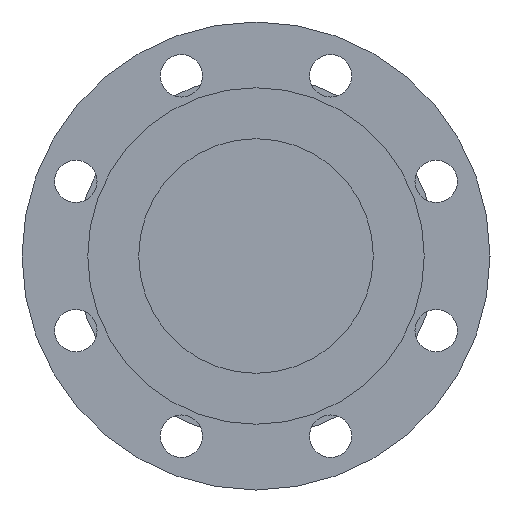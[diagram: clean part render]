
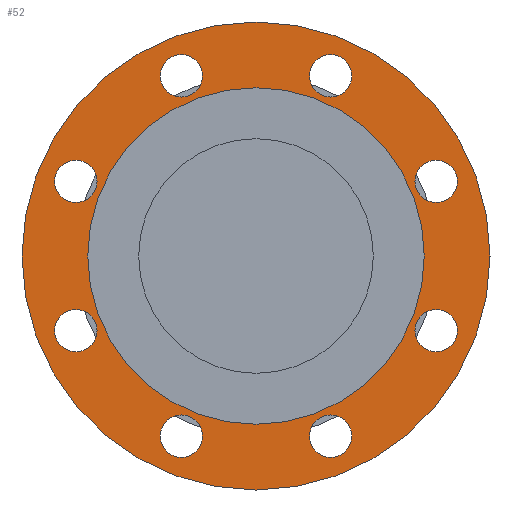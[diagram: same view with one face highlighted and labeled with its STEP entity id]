
A CAD part, left-side view. The second image highlights one B-rep face of the part: STEP entity #52.
In plain terms, the highlighted planar face has unit normal (-1, 0, 0).
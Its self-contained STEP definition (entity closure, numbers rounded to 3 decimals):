
#52=ADVANCED_FACE('',(#247,#248,#249,#250,#251,#252,#253,#254,#255,#256),#246,.T.);
#246=PLANE('',#991);
#247=FACE_OUTER_BOUND('',#992,.T.);
#248=FACE_BOUND('',#993,.T.);
#249=FACE_BOUND('',#994,.T.);
#250=FACE_BOUND('',#995,.T.);
#251=FACE_BOUND('',#996,.T.);
#252=FACE_BOUND('',#997,.T.);
#253=FACE_BOUND('',#998,.T.);
#254=FACE_BOUND('',#999,.T.);
#255=FACE_BOUND('',#1000,.T.);
#256=FACE_BOUND('',#1001,.T.);
#988=CARTESIAN_POINT('',(1.,-191.865,-220.));
#989=DIRECTION('',(-1.,0.,0.));
#990=DIRECTION('',(0.,0.,1.));
#991=AXIS2_PLACEMENT_3D('',#988,#989,#990);
#992=EDGE_LOOP('',(#1409,#1410));
#993=EDGE_LOOP('',(#1411,#1412));
#994=EDGE_LOOP('',(#1413,#1414));
#995=EDGE_LOOP('',(#1415,#1416));
#996=EDGE_LOOP('',(#1417,#1418));
#997=EDGE_LOOP('',(#1419,#1420));
#998=EDGE_LOOP('',(#1421,#1422));
#999=EDGE_LOOP('',(#1423,#1424));
#1000=EDGE_LOOP('',(#1425,#1426));
#1001=EDGE_LOOP('',(#1427,#1428));
#1409=ORIENTED_EDGE('',*,*,#1787,.T.);
#1410=ORIENTED_EDGE('',*,*,#1788,.T.);
#1411=ORIENTED_EDGE('',*,*,#1789,.F.);
#1412=ORIENTED_EDGE('',*,*,#1790,.F.);
#1413=ORIENTED_EDGE('',*,*,#1791,.F.);
#1414=ORIENTED_EDGE('',*,*,#1792,.F.);
#1415=ORIENTED_EDGE('',*,*,#1793,.F.);
#1416=ORIENTED_EDGE('',*,*,#1794,.F.);
#1417=ORIENTED_EDGE('',*,*,#1795,.F.);
#1418=ORIENTED_EDGE('',*,*,#1796,.F.);
#1419=ORIENTED_EDGE('',*,*,#1797,.F.);
#1420=ORIENTED_EDGE('',*,*,#1798,.F.);
#1421=ORIENTED_EDGE('',*,*,#1799,.F.);
#1422=ORIENTED_EDGE('',*,*,#1800,.F.);
#1423=ORIENTED_EDGE('',*,*,#1801,.F.);
#1424=ORIENTED_EDGE('',*,*,#1802,.F.);
#1425=ORIENTED_EDGE('',*,*,#1803,.F.);
#1426=ORIENTED_EDGE('',*,*,#1804,.F.);
#1427=ORIENTED_EDGE('',*,*,#1805,.F.);
#1428=ORIENTED_EDGE('',*,*,#1806,.F.);
#1787=EDGE_CURVE('',#2328,#2329,#2330,.T.);
#1788=EDGE_CURVE('',#2329,#2328,#2336,.T.);
#1789=EDGE_CURVE('',#2342,#2343,#2344,.T.);
#1790=EDGE_CURVE('',#2343,#2342,#2350,.T.);
#1791=EDGE_CURVE('',#2356,#2357,#2358,.T.);
#1792=EDGE_CURVE('',#2357,#2356,#2364,.T.);
#1793=EDGE_CURVE('',#2370,#2371,#2372,.T.);
#1794=EDGE_CURVE('',#2371,#2370,#2378,.T.);
#1795=EDGE_CURVE('',#2384,#2385,#2386,.T.);
#1796=EDGE_CURVE('',#2385,#2384,#2392,.T.);
#1797=EDGE_CURVE('',#2398,#2399,#2400,.T.);
#1798=EDGE_CURVE('',#2399,#2398,#2406,.T.);
#1799=EDGE_CURVE('',#2412,#2413,#2414,.T.);
#1800=EDGE_CURVE('',#2413,#2412,#2420,.T.);
#1801=EDGE_CURVE('',#2426,#2427,#2428,.T.);
#1802=EDGE_CURVE('',#2427,#2426,#2434,.T.);
#1803=EDGE_CURVE('',#2440,#2441,#2442,.T.);
#1804=EDGE_CURVE('',#2441,#2440,#2448,.T.);
#1805=EDGE_CURVE('',#2454,#2455,#2456,.T.);
#1806=EDGE_CURVE('',#2455,#2454,#2462,.T.);
#2328=VERTEX_POINT('',#3475);
#2329=VERTEX_POINT('',#3476);
#2330=CIRCLE('',#3480,105.);
#2336=CIRCLE('',#3484,105.);
#2342=VERTEX_POINT('',#3485);
#2343=VERTEX_POINT('',#3486);
#2344=CIRCLE('',#3490,9.5);
#2350=CIRCLE('',#3494,9.5);
#2356=VERTEX_POINT('',#3495);
#2357=VERTEX_POINT('',#3496);
#2358=CIRCLE('',#3500,9.5);
#2364=CIRCLE('',#3504,9.5);
#2370=VERTEX_POINT('',#3505);
#2371=VERTEX_POINT('',#3506);
#2372=CIRCLE('',#3510,9.5);
#2378=CIRCLE('',#3514,9.5);
#2384=VERTEX_POINT('',#3515);
#2385=VERTEX_POINT('',#3516);
#2386=CIRCLE('',#3520,9.5);
#2392=CIRCLE('',#3524,9.5);
#2398=VERTEX_POINT('',#3525);
#2399=VERTEX_POINT('',#3526);
#2400=CIRCLE('',#3530,9.5);
#2406=CIRCLE('',#3534,9.5);
#2412=VERTEX_POINT('',#3535);
#2413=VERTEX_POINT('',#3536);
#2414=CIRCLE('',#3540,9.5);
#2420=CIRCLE('',#3544,9.5);
#2426=VERTEX_POINT('',#3545);
#2427=VERTEX_POINT('',#3546);
#2428=CIRCLE('',#3550,9.5);
#2434=CIRCLE('',#3554,9.5);
#2440=VERTEX_POINT('',#3555);
#2441=VERTEX_POINT('',#3556);
#2442=CIRCLE('',#3560,75.5);
#2448=CIRCLE('',#3564,75.5);
#2454=VERTEX_POINT('',#3565);
#2455=VERTEX_POINT('',#3566);
#2456=CIRCLE('',#3570,9.5);
#2462=CIRCLE('',#3574,9.5);
#3475=CARTESIAN_POINT('',(1.,0.,105.));
#3476=CARTESIAN_POINT('',(1.,0.,-105.));
#3477=CARTESIAN_POINT('',(1.,0.,0.));
#3478=DIRECTION('',(-1.,0.,0.));
#3479=DIRECTION('',(0.,0.,1.));
#3480=AXIS2_PLACEMENT_3D('',#3477,#3478,#3479);
#3481=CARTESIAN_POINT('',(1.,0.,0.));
#3482=DIRECTION('',(-1.,0.,0.));
#3483=DIRECTION('',(0.,0.,1.));
#3484=AXIS2_PLACEMENT_3D('',#3481,#3482,#3483);
#3485=CARTESIAN_POINT('',(1.,80.839,-23.985));
#3486=CARTESIAN_POINT('',(1.,80.839,-42.985));
#3487=CARTESIAN_POINT('',(1.,80.839,-33.485));
#3488=DIRECTION('',(-1.,0.,0.));
#3489=DIRECTION('',(0.,0.,-1.));
#3490=AXIS2_PLACEMENT_3D('',#3487,#3488,#3489);
#3491=CARTESIAN_POINT('',(1.,80.839,-33.485));
#3492=DIRECTION('',(-1.,0.,0.));
#3493=DIRECTION('',(0.,0.,-1.));
#3494=AXIS2_PLACEMENT_3D('',#3491,#3492,#3493);
#3495=CARTESIAN_POINT('',(1.,33.485,-71.339));
#3496=CARTESIAN_POINT('',(1.,33.485,-90.339));
#3497=CARTESIAN_POINT('',(1.,33.485,-80.839));
#3498=DIRECTION('',(-1.,0.,0.));
#3499=DIRECTION('',(0.,0.,-1.));
#3500=AXIS2_PLACEMENT_3D('',#3497,#3498,#3499);
#3501=CARTESIAN_POINT('',(1.,33.485,-80.839));
#3502=DIRECTION('',(-1.,0.,0.));
#3503=DIRECTION('',(0.,0.,-1.));
#3504=AXIS2_PLACEMENT_3D('',#3501,#3502,#3503);
#3505=CARTESIAN_POINT('',(1.,-33.485,-71.339));
#3506=CARTESIAN_POINT('',(1.,-33.485,-90.339));
#3507=CARTESIAN_POINT('',(1.,-33.485,-80.839));
#3508=DIRECTION('',(-1.,0.,0.));
#3509=DIRECTION('',(0.,0.,-1.));
#3510=AXIS2_PLACEMENT_3D('',#3507,#3508,#3509);
#3511=CARTESIAN_POINT('',(1.,-33.485,-80.839));
#3512=DIRECTION('',(-1.,0.,0.));
#3513=DIRECTION('',(0.,0.,-1.));
#3514=AXIS2_PLACEMENT_3D('',#3511,#3512,#3513);
#3515=CARTESIAN_POINT('',(1.,-80.839,-23.985));
#3516=CARTESIAN_POINT('',(1.,-80.839,-42.985));
#3517=CARTESIAN_POINT('',(1.,-80.839,-33.485));
#3518=DIRECTION('',(-1.,0.,0.));
#3519=DIRECTION('',(0.,0.,-1.));
#3520=AXIS2_PLACEMENT_3D('',#3517,#3518,#3519);
#3521=CARTESIAN_POINT('',(1.,-80.839,-33.485));
#3522=DIRECTION('',(-1.,0.,0.));
#3523=DIRECTION('',(0.,0.,-1.));
#3524=AXIS2_PLACEMENT_3D('',#3521,#3522,#3523);
#3525=CARTESIAN_POINT('',(1.,-80.839,42.985));
#3526=CARTESIAN_POINT('',(1.,-80.839,23.985));
#3527=CARTESIAN_POINT('',(1.,-80.839,33.485));
#3528=DIRECTION('',(-1.,0.,0.));
#3529=DIRECTION('',(0.,0.,-1.));
#3530=AXIS2_PLACEMENT_3D('',#3527,#3528,#3529);
#3531=CARTESIAN_POINT('',(1.,-80.839,33.485));
#3532=DIRECTION('',(-1.,0.,0.));
#3533=DIRECTION('',(0.,0.,-1.));
#3534=AXIS2_PLACEMENT_3D('',#3531,#3532,#3533);
#3535=CARTESIAN_POINT('',(1.,-33.485,90.34));
#3536=CARTESIAN_POINT('',(1.,-33.485,71.34));
#3537=CARTESIAN_POINT('',(1.,-33.485,80.84));
#3538=DIRECTION('',(-1.,0.,0.));
#3539=DIRECTION('',(0.,0.,-1.));
#3540=AXIS2_PLACEMENT_3D('',#3537,#3538,#3539);
#3541=CARTESIAN_POINT('',(1.,-33.485,80.84));
#3542=DIRECTION('',(-1.,0.,0.));
#3543=DIRECTION('',(0.,0.,-1.));
#3544=AXIS2_PLACEMENT_3D('',#3541,#3542,#3543);
#3545=CARTESIAN_POINT('',(1.,33.485,90.34));
#3546=CARTESIAN_POINT('',(1.,33.485,71.34));
#3547=CARTESIAN_POINT('',(1.,33.485,80.84));
#3548=DIRECTION('',(-1.,0.,0.));
#3549=DIRECTION('',(0.,0.,-1.));
#3550=AXIS2_PLACEMENT_3D('',#3547,#3548,#3549);
#3551=CARTESIAN_POINT('',(1.,33.485,80.84));
#3552=DIRECTION('',(-1.,0.,0.));
#3553=DIRECTION('',(0.,0.,-1.));
#3554=AXIS2_PLACEMENT_3D('',#3551,#3552,#3553);
#3555=CARTESIAN_POINT('',(1.,0.,-75.5));
#3556=CARTESIAN_POINT('',(1.,0.,75.5));
#3557=CARTESIAN_POINT('',(1.,0.,0.));
#3558=DIRECTION('',(-1.,0.,0.));
#3559=DIRECTION('',(0.,0.,1.));
#3560=AXIS2_PLACEMENT_3D('',#3557,#3558,#3559);
#3561=CARTESIAN_POINT('',(1.,0.,0.));
#3562=DIRECTION('',(-1.,0.,0.));
#3563=DIRECTION('',(0.,0.,1.));
#3564=AXIS2_PLACEMENT_3D('',#3561,#3562,#3563);
#3565=CARTESIAN_POINT('',(1.,80.839,42.985));
#3566=CARTESIAN_POINT('',(1.,80.839,23.985));
#3567=CARTESIAN_POINT('',(1.,80.839,33.485));
#3568=DIRECTION('',(-1.,0.,0.));
#3569=DIRECTION('',(0.,0.,-1.));
#3570=AXIS2_PLACEMENT_3D('',#3567,#3568,#3569);
#3571=CARTESIAN_POINT('',(1.,80.839,33.485));
#3572=DIRECTION('',(-1.,0.,0.));
#3573=DIRECTION('',(0.,0.,-1.));
#3574=AXIS2_PLACEMENT_3D('',#3571,#3572,#3573);
